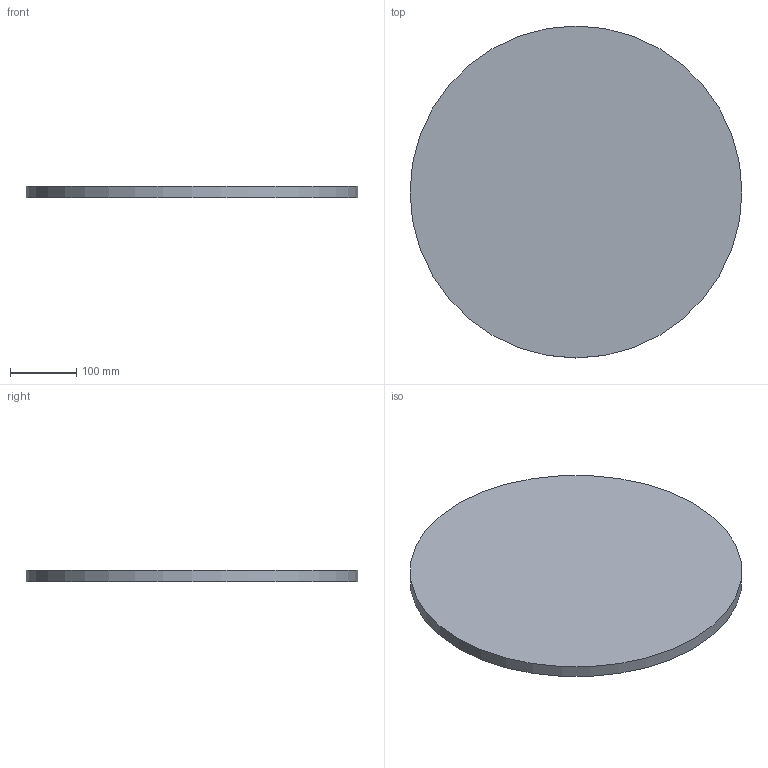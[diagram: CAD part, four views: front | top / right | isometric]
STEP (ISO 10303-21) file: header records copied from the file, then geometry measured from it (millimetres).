
FILE_DESCRIPTION(('Open CASCADE Model'),'2;1');
FILE_NAME('Open CASCADE Shape Model','2026-09-28T11:39:48',('Author'),( 'Open CASCADE'),'Open CASCADE STEP processor 7.9','Open CASCADE 7.9' ,'Unknown');
FILE_SCHEMA(('AUTOMOTIVE_DESIGN { 1 0 10303 214 1 1 1 1 }'));
Length unit declared in the file: millimetre
Products named in the file (2): disc-500; disc
Assembly tree (1 placements, depth 2):
  disc-500
    disc
Bounding box: 500 x 500 x 18 mm (x, y, z)
Volume: 3534291.7 mm3; surface area: 420973.4 mm2
Topology: 1 solids, 1 shells, 3 faces, 3 edges, 2 vertices
Faces by surface type: plane 2, cylinder 1
Full cylindrical faces by diameter (mm): 500 x1
Entity records: 135 total; most frequent: DIRECTION 21, CARTESIAN_POINT 16, AXIS2_PLACEMENT_3D 7, ORIENTED_EDGE 6, PCURVE 6, DEFINITIONAL_REPRESENTATION 6, LINE 5, VECTOR 5
